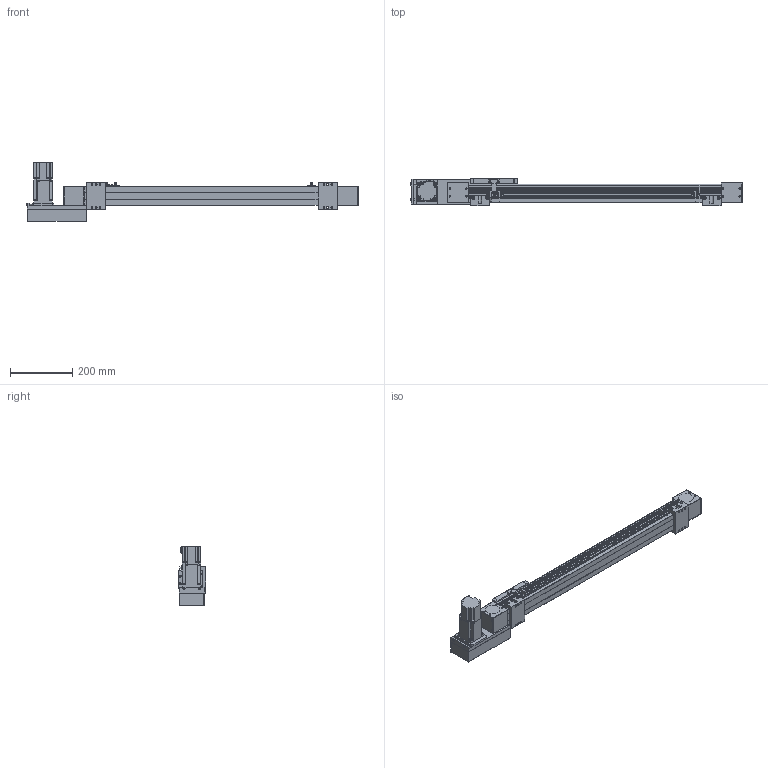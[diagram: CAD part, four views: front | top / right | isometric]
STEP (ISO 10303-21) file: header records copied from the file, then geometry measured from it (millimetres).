
FILE_DESCRIPTION(/* description */ ('STEP AP214'),/* implementation_level */ '2;1');
FILE_NAME(/* name */ 'SK60-P13-S650-L-T40-C1-N(0)',/* time_stamp */ '2023-04-06T04:04:14+02:00',/* author */ ('License CC BY-ND 4.0'),/* organization */ ('CADENAS'),/* preprocessor_version */ 'ST-DEVELOPER v19.3',/* originating_system */ 'PARTsolutions',/* authorisation */ ' ');
FILE_SCHEMA (('AUTOMOTIVE_DESIGN {1 0 10303 214 3 1 1}'));
Length unit declared in the file: millimetre
Products named in the file (10): SK60-P13-S650-L-T40-C1-N(0); PSC140-sensor; SK60-S450_seat; SK60-S450-BL-C1_slider; SK60_body3; SK60_body6; SK60-BL_body2; T40-p1; SK60-L_fb; SK60-S650-L-C1_body
Assembly tree (16 placements, depth 2):
  SK60-P13-S650-L-T40-C1-N(0)
    PSC140-sensor  x3
    SK60-S450_seat  x2
    SK60-S450-BL-C1_slider
    SK60_body3  x3
    SK60_body6  x2
    SK60-BL_body2  x2
    T40-p1
    SK60-L_fb
    SK60-S650-L-C1_body
Bounding box: 1070.5 x 90 x 189.7 mm (x, y, z)
Volume: 4455827.4 mm3; surface area: 580748.6 mm2
Topology: 16 solids, 16 shells, 810 faces, 2048 edges, 1349 vertices
Faces by surface type: plane 524, cylinder 262, cone 22, torus 2
Full cylindrical faces by diameter (mm): 2.8 x3, 3.3 x4, 4 x2, 4.5 x30, 4.6 x3, 4.917 x16, 5 x6, 5.478 x4, 5.5 x19, 6.5 x4, 7 x2, 8 x4, 8.5 x4, 9.988 x4, 10 x8, 14 x1, 47 x3, 50 x2
Entity records: 18655 total; most frequent: DIRECTION 3184, CARTESIAN_POINT 3150, ORIENTED_EDGE 2940, EDGE_CURVE 1470, AXIS2_PLACEMENT_3D 1068, LINE 1048, VECTOR 1048, VERTEX_POINT 1034
